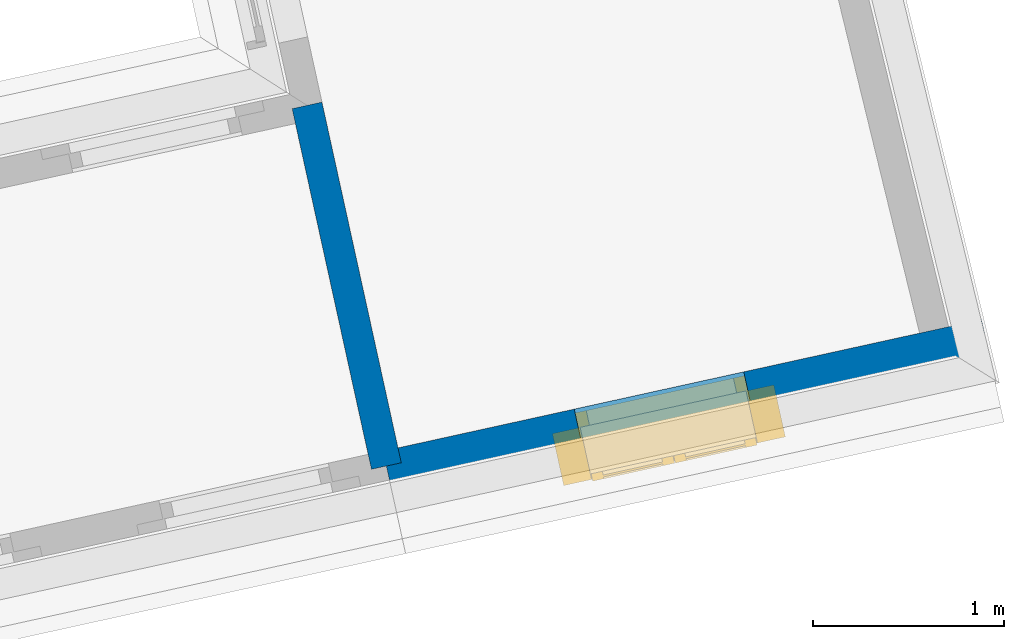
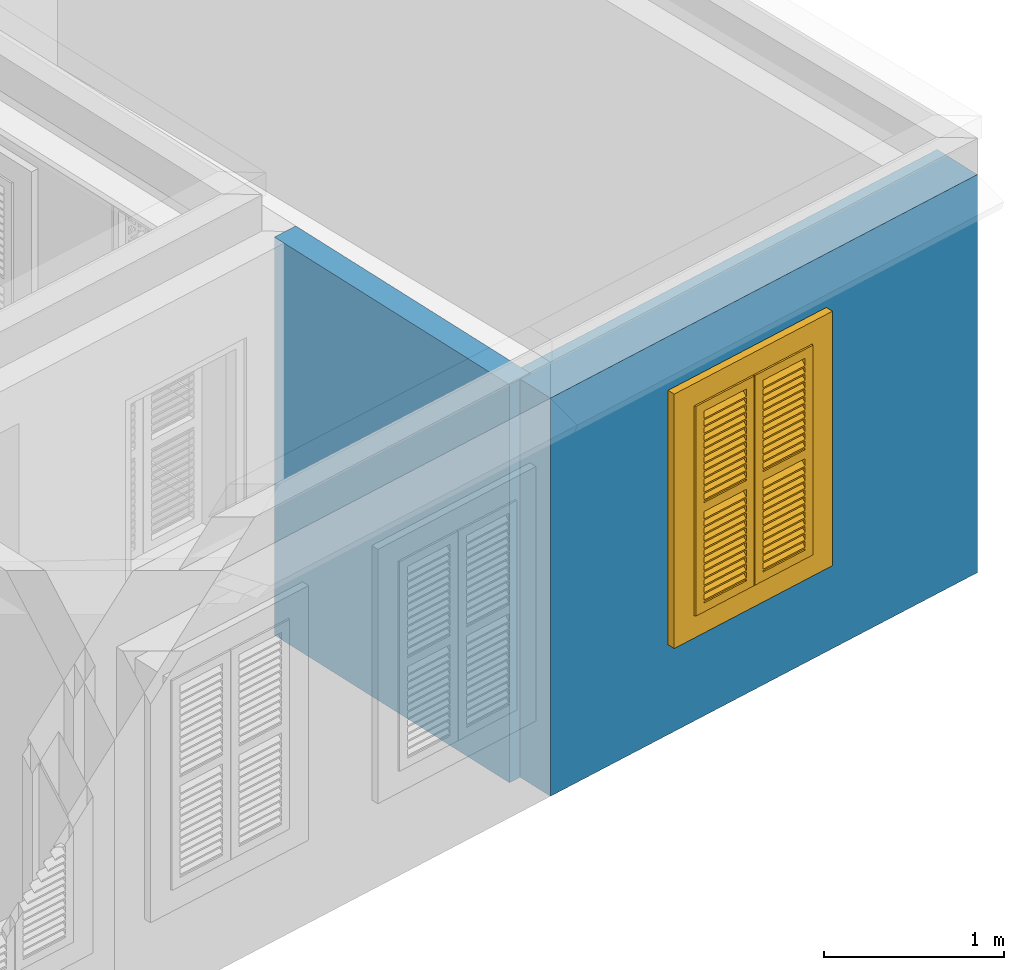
# One storey, part 6 of 17: 2 walls, 1 window, 1 opening.
"""IFC4 building model written with IfcOpenShell, lengths in metres."""

from ifc_helpers import new_model, si_unit, frame, origin, origin_with_axes, place, context, subcontext, project, spatial, polyline, outline, extrude, faceted_brep, source, transform, mapped, material, layer, layer_set, layer_usage, type_object, type_shapes, element, fill, save


model = new_model("IFC4")

# Units and contexts
model_context = context("Model", 3, world=origin_with_axes())
body_context = subcontext(model_context, "Body", "Model", "MODEL_VIEW")
ifc_project = project(units=[si_unit("PLANEANGLEUNIT", "RADIAN"), si_unit("MASSUNIT", "GRAM", prefix="KILO"), si_unit("FORCEUNIT", "NEWTON", prefix="KILO"), si_unit("LENGTHUNIT", "METRE"), si_unit("AREAUNIT", "SQUARE_METRE"), si_unit("VOLUMEUNIT", "CUBIC_METRE")], contexts=[model_context, model_context])

# Site, building, storey
site_placement = place(None, origin_with_axes())
site = spatial("IfcSite", under=ifc_project, at=site_placement, Name="Site plot-2", CompositionType="ELEMENT")
building_placement = place(None, origin_with_axes())
building = spatial("IfcBuilding", under=site, at=building_placement, Name="Building plot-2", CompositionType="ELEMENT")
storey_placement = place(None, frame((0.0, 0.0, 2.85), z_axis=(0.0, 0.0, 1.0), x_axis=(1.0, 0.0, 0.0)))
storey = spatial("IfcBuildingStorey", under=building, at=storey_placement, Name="plot-2 1", CompositionType="ELEMENT", Elevation=2.85)

# Wall, opening, window
ifc_material_1 = material(Name="Masonry")
ifc_layer_1 = layer(ifc_material_1, 0.33, ventilated=False)
ifc_layer_set_1 = layer_set([ifc_layer_1], Name="exterior_0.08_0.25")
ifc_layer_usage_1 = layer_usage(ifc_layer_set_1, "AXIS2", "POSITIVE", -0.25)
wall_type_1 = type_object("IfcWallType", Name="exterior_0.08_0.25", PredefinedType="SOLIDWALL", material=ifc_layer_set_1)
wall_1_placement = place(storey_placement, frame((17.8150690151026, 2.72446362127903, 0.0), z_axis=(0.0, 0.0, 1.0), x_axis=(0.976656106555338, 0.214808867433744, 0.0)))
wall_1 = element("IfcWall", 1, at=wall_1_placement, inside=storey, type_object=wall_type_1, material=ifc_layer_usage_1, Name="exterior", context=body_context, shape_type="SweptSolid", body=[
    extrude(outline(polyline([(1.5325654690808e-15, 0.0799999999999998), (-2.98229408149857e-15, -0.25), (3.21111456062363, -0.25), (3.21111456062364, 0.0799999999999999), (1.5325654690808e-15, 0.0799999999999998)])), origin_with_axes(), (0.0, 0.0, 1.0), 2.7),
])
opening_placement = place(wall_1_placement, frame((1.02555728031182, 0.0, 0.75)))
opening = element("IfcOpeningElement", 2, at=opening_placement, cuts=wall_1, Name="My Opening", ObjectType="Opening", context=body_context, shape_type="SweptSolid", body=[
    extrude(outline(polyline([(0.0, -0.27), (0.910000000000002, -0.270000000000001), (0.910000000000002, 1.1), (-2.22044604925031e-16, 1.1), (0.0, -0.27)])), origin_with_axes(), (0.0, 0.0, 1.0), 1.445),
])
window_type = type_object("IfcWindowType", Name="shuttered_shorter", PartitioningType="DOUBLE_PANEL_HORIZONTAL", PredefinedType="NOTDEFINED")
shared_shape = source(origin(), body_context, "Body", "Brep", [
    faceted_brep([(0.393, 0.0, 0.622), (0.074, 0.0, 0.622), (0.074, 0.0, 0.632), (0.393, 0.0, 0.632), (0.074, -0.04, 0.592), (0.393, -0.04, 0.592), (0.393, -0.04, 0.582), (0.074, -0.04, 0.582), (0.517, 0.0, 0.682), (0.836, 0.0, 0.682), (0.836, 0.0, 0.672), (0.517, 0.0, 0.672), (0.517, -0.04, 0.642), (0.836, -0.04, 0.642), (0.836, -0.04, 0.632), (0.517, -0.04, 0.632), (0.517, 0.0, 0.632), (0.836, 0.0, 0.632), (0.836, 0.0, 0.622), (0.517, 0.0, 0.622), (0.517, -0.04, 0.592), (0.836, -0.04, 0.592), (0.836, -0.04, 0.582), (0.517, -0.04, 0.582), (0.517, 0.0, 0.232), (0.836, 0.0, 0.232), (0.836, 0.0, 0.222), (0.517, 0.0, 0.222), (0.517, -0.04, 0.192), (0.836, -0.04, 0.192), (0.836, -0.04, 0.182), (0.517, -0.04, 0.182), (0.517, 0.0, 0.532), (0.836, 0.0, 0.532), (0.836, 0.0, 0.522), (0.517, 0.0, 0.522), (0.517, -0.04, 0.492), (0.836, -0.04, 0.492), (0.836, -0.04, 0.482), (0.517, -0.04, 0.482), (0.517, 0.0, 0.482), (0.836, 0.0, 0.482), (0.836, 0.0, 0.472), (0.517, 0.0, 0.472), (0.517, -0.04, 0.442), (0.836, -0.04, 0.442), (0.836, -0.04, 0.432), (0.517, -0.04, 0.432), (0.517, 0.0, 0.582), (0.836, 0.0, 0.582), (0.836, 0.0, 0.572), (0.517, 0.0, 0.572), (0.517, -0.04, 0.542), (0.836, -0.04, 0.542), (0.836, -0.04, 0.532), (0.517, -0.04, 0.532), (0.517, 0.0, 0.182), (0.836, 0.0, 0.182), (0.836, 0.0, 0.172), (0.517, 0.0, 0.172), (0.517, -0.04, 0.142), (0.836, -0.04, 0.142), (0.836, -0.04, 0.132), (0.517, -0.04, 0.132), (0.517, 0.0, 0.382), (0.836, 0.0, 0.382), (0.836, 0.0, 0.372), (0.517, 0.0, 0.372), (0.517, -0.04, 0.342), (0.836, -0.04, 0.342), (0.836, -0.04, 0.332), (0.517, -0.04, 0.332), (0.517, 0.0, 0.432), (0.836, 0.0, 0.432), (0.836, 0.0, 0.422), (0.517, 0.0, 0.422), (0.517, -0.04, 0.392), (0.836, -0.04, 0.392), (0.836, -0.04, 0.382), (0.517, -0.04, 0.382), (0.517, 0.0, 0.132), (0.836, 0.0, 0.132), (0.836, 0.0, 0.122), (0.517, 0.0, 0.122), (0.517, -0.04, 0.092), (0.836, -0.04, 0.092), (0.836, -0.04, 0.082), (0.517, -0.04, 0.082), (0.517, 0.0, 0.282), (0.836, 0.0, 0.282), (0.836, 0.0, 0.272), (0.517, 0.0, 0.272), (0.517, -0.04, 0.242), (0.836, -0.04, 0.242), (0.836, -0.04, 0.232), (0.517, -0.04, 0.232), (0.517, 0.0, 0.332), (0.836, 0.0, 0.332), (0.836, 0.0, 0.322), (0.517, 0.0, 0.322), (0.517, -0.04, 0.292), (0.836, -0.04, 0.292), (0.836, -0.04, 0.282), (0.517, -0.04, 0.282), (0.517, 0.0, 1.362667), (0.836, 0.0, 1.362667), (0.836, 0.0, 1.352667), (0.517, 0.0, 1.352667), (0.517, -0.04, 1.322667), (0.836, -0.04, 1.322667), (0.836, -0.04, 1.312667), (0.517, -0.04, 1.312667), (0.517, 0.0, 1.312667), (0.836, 0.0, 1.312667), (0.836, 0.0, 1.302667), (0.517, 0.0, 1.302667), (0.517, -0.04, 1.272667), (0.836, -0.04, 1.272667), (0.836, -0.04, 1.262667), (0.517, -0.04, 1.262667), (0.517, 0.0, 0.912667), (0.836, 0.0, 0.912667), (0.836, 0.0, 0.902667), (0.517, 0.0, 0.902667), (0.517, -0.04, 0.872667), (0.836, -0.04, 0.872667), (0.836, -0.04, 0.862667), (0.517, -0.04, 0.862667), (0.517, 0.0, 1.212667), (0.836, 0.0, 1.212667), (0.836, 0.0, 1.202667), (0.517, 0.0, 1.202667), (0.517, -0.04, 1.172667), (0.836, -0.04, 1.172667), (0.836, -0.04, 1.162667), (0.517, -0.04, 1.162667), (0.517, 0.0, 1.162667), (0.836, 0.0, 1.162667), (0.836, 0.0, 1.152667), (0.517, 0.0, 1.152667), (0.517, -0.04, 1.122667), (0.836, -0.04, 1.122667), (0.836, -0.04, 1.112667), (0.517, -0.04, 1.112667), (0.517, 0.0, 1.262667), (0.836, 0.0, 1.262667), (0.836, 0.0, 1.252667), (0.517, 0.0, 1.252667), (0.517, -0.04, 1.222667), (0.836, -0.04, 1.222667), (0.836, -0.04, 1.212667), (0.517, -0.04, 1.212667), (0.517, 0.0, 0.862667), (0.836, 0.0, 0.862667), (0.836, 0.0, 0.852667), (0.517, 0.0, 0.852667), (0.517, -0.04, 0.822667), (0.836, -0.04, 0.822667), (0.836, -0.04, 0.812667), (0.517, -0.04, 0.812667), (0.517, 0.0, 1.062667), (0.836, 0.0, 1.062667), (0.836, 0.0, 1.052667), (0.517, 0.0, 1.052667), (0.517, -0.04, 1.022667), (0.836, -0.04, 1.022667), (0.836, -0.04, 1.012667), (0.517, -0.04, 1.012667), (0.517, 0.0, 1.112667), (0.836, 0.0, 1.112667), (0.836, 0.0, 1.102667), (0.517, 0.0, 1.102667), (0.517, -0.04, 1.072667), (0.836, -0.04, 1.072667), (0.836, -0.04, 1.062667), (0.517, -0.04, 1.062667), (0.517, 0.0, 0.812667), (0.836, 0.0, 0.812667), (0.836, 0.0, 0.802667), (0.517, 0.0, 0.802667), (0.517, -0.04, 0.772667), (0.836, -0.04, 0.772667), (0.836, -0.04, 0.762667), (0.517, -0.04, 0.762667), (0.517, 0.0, 0.962667), (0.836, 0.0, 0.962667), (0.836, 0.0, 0.952667), (0.517, 0.0, 0.952667), (0.517, -0.04, 0.922667), (0.836, -0.04, 0.922667), (0.836, -0.04, 0.912667), (0.517, -0.04, 0.912667), (0.517, 0.0, 1.012667), (0.836, 0.0, 1.012667), (0.836, 0.0, 1.002667), (0.517, 0.0, 1.002667), (0.517, -0.04, 0.972667), (0.836, -0.04, 0.972667), (0.836, -0.04, 0.962667), (0.517, -0.04, 0.962667), (0.074, 0.0, 0.682), (0.393, 0.0, 0.682), (0.393, 0.0, 0.672), (0.074, 0.0, 0.672), (0.074, -0.04, 0.642), (0.393, -0.04, 0.642), (0.393, -0.04, 0.632), (0.074, -0.04, 0.632), (0.074, 0.0, 0.232), (0.393, 0.0, 0.232), (0.393, 0.0, 0.222), (0.074, 0.0, 0.222), (0.074, -0.04, 0.192), (0.393, -0.04, 0.192), (0.393, -0.04, 0.182), (0.074, -0.04, 0.182), (0.074, 0.0, 0.532), (0.393, 0.0, 0.532), (0.393, 0.0, 0.522), (0.074, 0.0, 0.522), (0.074, -0.04, 0.492), (0.393, -0.04, 0.492), (0.393, -0.04, 0.482), (0.074, -0.04, 0.482), (0.074, 0.0, 0.482), (0.393, 0.0, 0.482), (0.393, 0.0, 0.472), (0.074, 0.0, 0.472), (0.074, -0.04, 0.442), (0.393, -0.04, 0.442), (0.393, -0.04, 0.432), (0.074, -0.04, 0.432), (0.074, 0.0, 0.582), (0.393, 0.0, 0.582), (0.393, 0.0, 0.572), (0.074, 0.0, 0.572), (0.074, -0.04, 0.542), (0.393, -0.04, 0.542), (0.393, -0.04, 0.532), (0.074, -0.04, 0.532), (0.074, 0.0, 0.182), (0.393, 0.0, 0.182), (0.393, 0.0, 0.172), (0.074, 0.0, 0.172), (0.074, -0.04, 0.142), (0.393, -0.04, 0.142), (0.393, -0.04, 0.132), (0.074, -0.04, 0.132), (0.074, 0.0, 0.382), (0.393, 0.0, 0.382), (0.393, 0.0, 0.372), (0.074, 0.0, 0.372), (0.074, -0.04, 0.342), (0.393, -0.04, 0.342), (0.393, -0.04, 0.332), (0.074, -0.04, 0.332), (0.074, 0.0, 0.432), (0.393, 0.0, 0.432), (0.393, 0.0, 0.422), (0.074, 0.0, 0.422), (0.074, -0.04, 0.392), (0.393, -0.04, 0.392), (0.393, -0.04, 0.382), (0.074, -0.04, 0.382), (0.074, 0.0, 0.132), (0.393, 0.0, 0.132), (0.393, 0.0, 0.122), (0.074, 0.0, 0.122), (0.074, -0.04, 0.092), (0.393, -0.04, 0.092), (0.393, -0.04, 0.082), (0.074, -0.04, 0.082), (0.074, 0.0, 0.282), (0.393, 0.0, 0.282), (0.393, 0.0, 0.272), (0.074, 0.0, 0.272), (0.074, -0.04, 0.242), (0.393, -0.04, 0.242), (0.393, -0.04, 0.232), (0.074, -0.04, 0.232), (0.074, 0.0, 0.332), (0.393, 0.0, 0.332), (0.393, 0.0, 0.322), (0.074, 0.0, 0.322), (0.074, -0.04, 0.292), (0.393, -0.04, 0.292), (0.393, -0.04, 0.282), (0.074, -0.04, 0.282), (0.074, 0.0, 1.362667), (0.393, 0.0, 1.362667), (0.393, 0.0, 1.352667), (0.074, 0.0, 1.352667), (0.074, -0.04, 1.322667), (0.393, -0.04, 1.322667), (0.393, -0.04, 1.312667), (0.074, -0.04, 1.312667), (0.074, 0.0, 1.312667), (0.393, 0.0, 1.312667), (0.393, 0.0, 1.302667), (0.074, 0.0, 1.302667), (0.074, -0.04, 1.272667), (0.393, -0.04, 1.272667), (0.393, -0.04, 1.262667), (0.074, -0.04, 1.262667), (0.074, 0.0, 0.912667), (0.393, 0.0, 0.912667), (0.393, 0.0, 0.902667), (0.074, 0.0, 0.902667), (0.074, -0.04, 0.872667), (0.393, -0.04, 0.872667), (0.393, -0.04, 0.862667), (0.074, -0.04, 0.862667), (0.074, 0.0, 1.212667), (0.393, 0.0, 1.212667), (0.393, 0.0, 1.202667), (0.074, 0.0, 1.202667), (0.074, -0.04, 1.172667), (0.393, -0.04, 1.172667), (0.393, -0.04, 1.162667), (0.074, -0.04, 1.162667), (0.074, 0.0, 1.162667), (0.393, 0.0, 1.162667), (0.393, 0.0, 1.152667), (0.074, 0.0, 1.152667), (0.074, -0.04, 1.122667), (0.393, -0.04, 1.122667), (0.393, -0.04, 1.112667), (0.074, -0.04, 1.112667), (0.074, 0.0, 1.262667), (0.393, 0.0, 1.262667), (0.393, 0.0, 1.252667), (0.074, 0.0, 1.252667), (0.074, -0.04, 1.222667), (0.393, -0.04, 1.222667), (0.393, -0.04, 1.212667), (0.074, -0.04, 1.212667), (0.074, 0.0, 0.862667), (0.393, 0.0, 0.862667), (0.393, 0.0, 0.852667), (0.074, 0.0, 0.852667), (0.074, -0.04, 0.822667), (0.393, -0.04, 0.822667), (0.393, -0.04, 0.812667), (0.074, -0.04, 0.812667), (0.074, 0.0, 1.062667), (0.393, 0.0, 1.062667), (0.393, 0.0, 1.052667), (0.074, 0.0, 1.052667), (0.074, -0.04, 1.022667), (0.393, -0.04, 1.022667), (0.393, -0.04, 1.012667), (0.074, -0.04, 1.012667), (0.074, 0.0, 1.112667), (0.393, 0.0, 1.112667), (0.393, 0.0, 1.102667), (0.074, 0.0, 1.102667), (0.074, -0.04, 1.072667), (0.393, -0.04, 1.072667), (0.393, -0.04, 1.062667), (0.074, -0.04, 1.062667), (0.074, 0.0, 0.812667), (0.393, 0.0, 0.812667), (0.393, 0.0, 0.802667), (0.074, 0.0, 0.802667), (0.074, -0.04, 0.772667), (0.393, -0.04, 0.772667), (0.393, -0.04, 0.762667), (0.074, -0.04, 0.762667), (0.074, 0.0, 0.962667), (0.393, 0.0, 0.962667), (0.393, 0.0, 0.952667), (0.074, 0.0, 0.952667), (0.074, -0.04, 0.922667), (0.393, -0.04, 0.922667), (0.393, -0.04, 0.912667), (0.074, -0.04, 0.912667), (0.074, 0.0, 1.012667), (0.393, 0.0, 1.012667), (0.393, 0.0, 1.002667), (0.074, 0.0, 1.002667), (0.074, -0.04, 0.972667), (0.393, -0.04, 0.972667), (0.393, -0.04, 0.962667), (0.074, -0.04, 0.962667), (0.517, -0.04, 0.072), (0.457, -0.04, 0.012), (0.896, -0.04, 0.012), (0.836, -0.04, 0.072), (0.457, -0.04, 0.692667), (0.517, -0.04, 0.692667), (0.457, 0.0, 0.012), (0.896, 0.0, 0.012), (0.836, -0.04, 0.692667), (0.896, -0.04, 0.692667), (0.836, 0.0, 0.072), (0.517, 0.0, 0.072), (0.457, 0.0, 0.692667), (0.517, 0.0, 0.692667), (0.517, -0.04, 0.752666), (0.457, -0.04, 0.752666), (0.896, 0.0, 0.692667), (0.836, 0.0, 0.692667), (0.836, -0.04, 0.752666), (0.896, -0.04, 0.752666), (0.457, 0.0, 0.752666), (0.457, -0.04, 1.433333), (0.517, -0.04, 1.373333), (0.896, 0.0, 0.752666), (0.836, -0.04, 1.373333), (0.896, -0.04, 1.433333), (0.457, 0.0, 1.433333), (0.517, 0.0, 0.752666), (0.836, 0.0, 0.752666), (0.517, 0.0, 1.373333), (0.896, 0.0, 1.433333), (0.836, 0.0, 1.373333), (0.074, -0.04, 0.072), (0.014, -0.04, 0.012), (0.453, -0.04, 0.012), (0.393, -0.04, 0.072), (0.014, -0.04, 0.692667), (0.074, -0.04, 0.692667), (0.014, 0.0, 0.012), (0.453, 0.0, 0.012), (0.393, -0.04, 0.692667), (0.453, -0.04, 0.692667), (0.393, 0.0, 0.072), (0.074, 0.0, 0.072), (0.014, 0.0, 0.692667), (0.074, 0.0, 0.692667), (0.074, -0.04, 0.752666), (0.014, -0.04, 0.752666), (0.453, 0.0, 0.692667), (0.393, 0.0, 0.692667), (0.393, -0.04, 0.752666), (0.453, -0.04, 0.752666), (0.014, 0.0, 0.752666), (0.014, -0.04, 1.433333), (0.074, -0.04, 1.373333), (0.453, 0.0, 0.752666), (0.393, -0.04, 1.373333), (0.453, -0.04, 1.433333), (0.014, 0.0, 1.433333), (0.074, 0.0, 0.752666), (0.393, 0.0, 0.752666), (0.074, 0.0, 1.373333), (0.453, 0.0, 1.433333), (0.393, 0.0, 1.373333), (0.0, 0.33, 1.445), (0.91, 0.33, 1.445), (0.85, 0.33, 1.385), (0.06, 0.33, 1.385), (0.91, 0.25, 1.445), (0.0, 0.25, 1.445), (0.91, 0.25, 1.445), (0.85, 0.33, 0.06), (0.91, 0.33, 0.0), (0.85, 0.25, 1.385), (0.06, 0.25, 1.385), (0.0, 0.33, 0.0), (0.06, 0.33, 0.06), (0.0, 0.25, 0.0), (0.91, 0.25, 0.0), (0.85, 0.25, 0.06), (0.06, 0.25, 0.06), (1.05, 0.25, 1.585), (-0.14, 0.25, 1.585), (-0.14, -0.03, 1.585), (1.05, -0.03, 1.585), (0.9, -0.03, 1.435), (0.01, -0.03, 1.435), (0.01, 0.25, 1.435), (0.9, 0.25, 1.435), (0.9, 0.25, 0.01), (0.9, -0.03, 0.01), (1.05, -0.03, -0.14), (1.05, 0.25, -0.14), (0.01, -0.03, 0.01), (0.01, 0.25, 0.01), (-0.14, -0.03, -0.14), (-0.14, 0.25, -0.14)], [[[0, 1, 2, 3]], [[4, 5, 3, 2]], [[5, 6, 0, 3]], [[1, 0, 6, 7]], [[2, 1, 7, 4]], [[5, 4, 7, 6]], [[8, 9, 10, 11]], [[12, 13, 9, 8]], [[13, 14, 10, 9]], [[14, 15, 11, 10]], [[15, 12, 8, 11]], [[13, 12, 15, 14]], [[16, 17, 18, 19]], [[20, 21, 17, 16]], [[21, 22, 18, 17]], [[22, 23, 19, 18]], [[23, 20, 16, 19]], [[21, 20, 23, 22]], [[24, 25, 26, 27]], [[28, 29, 25, 24]], [[29, 30, 26, 25]], [[30, 31, 27, 26]], [[31, 28, 24, 27]], [[29, 28, 31, 30]], [[32, 33, 34, 35]], [[36, 37, 33, 32]], [[37, 38, 34, 33]], [[38, 39, 35, 34]], [[39, 36, 32, 35]], [[37, 36, 39, 38]], [[40, 41, 42, 43]], [[44, 45, 41, 40]], [[45, 46, 42, 41]], [[46, 47, 43, 42]], [[47, 44, 40, 43]], [[45, 44, 47, 46]], [[48, 49, 50, 51]], [[52, 53, 49, 48]], [[53, 54, 50, 49]], [[54, 55, 51, 50]], [[55, 52, 48, 51]], [[53, 52, 55, 54]], [[56, 57, 58, 59]], [[60, 61, 57, 56]], [[61, 62, 58, 57]], [[62, 63, 59, 58]], [[63, 60, 56, 59]], [[61, 60, 63, 62]], [[64, 65, 66, 67]], [[68, 69, 65, 64]], [[69, 70, 66, 65]], [[70, 71, 67, 66]], [[71, 68, 64, 67]], [[69, 68, 71, 70]], [[72, 73, 74, 75]], [[76, 77, 73, 72]], [[77, 78, 74, 73]], [[78, 79, 75, 74]], [[79, 76, 72, 75]], [[77, 76, 79, 78]], [[80, 81, 82, 83]], [[84, 85, 81, 80]], [[85, 86, 82, 81]], [[86, 87, 83, 82]], [[87, 84, 80, 83]], [[85, 84, 87, 86]], [[88, 89, 90, 91]], [[92, 93, 89, 88]], [[93, 94, 90, 89]], [[94, 95, 91, 90]], [[95, 92, 88, 91]], [[93, 92, 95, 94]], [[96, 97, 98, 99]], [[100, 101, 97, 96]], [[101, 102, 98, 97]], [[102, 103, 99, 98]], [[103, 100, 96, 99]], [[101, 100, 103, 102]], [[104, 105, 106, 107]], [[108, 109, 105, 104]], [[109, 110, 106, 105]], [[110, 111, 107, 106]], [[111, 108, 104, 107]], [[109, 108, 111, 110]], [[112, 113, 114, 115]], [[116, 117, 113, 112]], [[117, 118, 114, 113]], [[118, 119, 115, 114]], [[119, 116, 112, 115]], [[117, 116, 119, 118]], [[120, 121, 122, 123]], [[124, 125, 121, 120]], [[125, 126, 122, 121]], [[126, 127, 123, 122]], [[127, 124, 120, 123]], [[125, 124, 127, 126]], [[128, 129, 130, 131]], [[132, 133, 129, 128]], [[133, 134, 130, 129]], [[134, 135, 131, 130]], [[135, 132, 128, 131]], [[133, 132, 135, 134]], [[136, 137, 138, 139]], [[140, 141, 137, 136]], [[141, 142, 138, 137]], [[142, 143, 139, 138]], [[139, 143, 140, 136]], [[141, 140, 143, 142]], [[144, 145, 146, 147]], [[148, 149, 145, 144]], [[149, 150, 146, 145]], [[150, 151, 147, 146]], [[151, 148, 144, 147]], [[149, 148, 151, 150]], [[152, 153, 154, 155]], [[156, 157, 153, 152]], [[157, 158, 154, 153]], [[158, 159, 155, 154]], [[159, 156, 152, 155]], [[157, 156, 159, 158]], [[160, 161, 162, 163]], [[164, 165, 161, 160]], [[165, 166, 162, 161]], [[166, 167, 163, 162]], [[167, 164, 160, 163]], [[165, 164, 167, 166]], [[168, 169, 170, 171]], [[172, 173, 169, 168]], [[173, 174, 170, 169]], [[174, 175, 171, 170]], [[175, 172, 168, 171]], [[173, 172, 175, 174]], [[176, 177, 178, 179]], [[180, 181, 177, 176]], [[181, 182, 178, 177]], [[182, 183, 179, 178]], [[183, 180, 176, 179]], [[181, 180, 183, 182]], [[184, 185, 186, 187]], [[188, 189, 185, 184]], [[189, 190, 186, 185]], [[190, 191, 187, 186]], [[191, 188, 184, 187]], [[189, 188, 191, 190]], [[192, 193, 194, 195]], [[196, 197, 193, 192]], [[197, 198, 194, 193]], [[198, 199, 195, 194]], [[199, 196, 192, 195]], [[197, 196, 199, 198]], [[200, 201, 202, 203]], [[204, 205, 201, 200]], [[205, 206, 202, 201]], [[206, 207, 203, 202]], [[207, 204, 200, 203]], [[205, 204, 207, 206]], [[208, 209, 210, 211]], [[212, 213, 209, 208]], [[213, 214, 210, 209]], [[214, 215, 211, 210]], [[215, 212, 208, 211]], [[213, 212, 215, 214]], [[216, 217, 218, 219]], [[220, 221, 217, 216]], [[221, 222, 218, 217]], [[222, 223, 219, 218]], [[223, 220, 216, 219]], [[221, 220, 223, 222]], [[224, 225, 226, 227]], [[228, 229, 225, 224]], [[229, 230, 226, 225]], [[230, 231, 227, 226]], [[231, 228, 224, 227]], [[229, 228, 231, 230]], [[232, 233, 234, 235]], [[236, 237, 233, 232]], [[237, 238, 234, 233]], [[238, 239, 235, 234]], [[239, 236, 232, 235]], [[237, 236, 239, 238]], [[240, 241, 242, 243]], [[244, 245, 241, 240]], [[245, 246, 242, 241]], [[246, 247, 243, 242]], [[247, 244, 240, 243]], [[245, 244, 247, 246]], [[248, 249, 250, 251]], [[252, 253, 249, 248]], [[253, 254, 250, 249]], [[254, 255, 251, 250]], [[255, 252, 248, 251]], [[253, 252, 255, 254]], [[256, 257, 258, 259]], [[260, 261, 257, 256]], [[261, 262, 258, 257]], [[262, 263, 259, 258]], [[263, 260, 256, 259]], [[261, 260, 263, 262]], [[264, 265, 266, 267]], [[268, 269, 265, 264]], [[269, 270, 266, 265]], [[270, 271, 267, 266]], [[271, 268, 264, 267]], [[269, 268, 271, 270]], [[272, 273, 274, 275]], [[276, 277, 273, 272]], [[277, 278, 274, 273]], [[278, 279, 275, 274]], [[279, 276, 272, 275]], [[277, 276, 279, 278]], [[280, 281, 282, 283]], [[284, 285, 281, 280]], [[285, 286, 282, 281]], [[286, 287, 283, 282]], [[287, 284, 280, 283]], [[285, 284, 287, 286]], [[288, 289, 290, 291]], [[292, 293, 289, 288]], [[293, 294, 290, 289]], [[294, 295, 291, 290]], [[295, 292, 288, 291]], [[293, 292, 295, 294]], [[296, 297, 298, 299]], [[300, 301, 297, 296]], [[301, 302, 298, 297]], [[302, 303, 299, 298]], [[303, 300, 296, 299]], [[301, 300, 303, 302]], [[304, 305, 306, 307]], [[308, 309, 305, 304]], [[309, 310, 306, 305]], [[310, 311, 307, 306]], [[311, 308, 304, 307]], [[309, 308, 311, 310]], [[312, 313, 314, 315]], [[316, 317, 313, 312]], [[317, 318, 314, 313]], [[318, 319, 315, 314]], [[319, 316, 312, 315]], [[317, 316, 319, 318]], [[320, 321, 322, 323]], [[324, 325, 321, 320]], [[325, 326, 322, 321]], [[326, 327, 323, 322]], [[327, 324, 320, 323]], [[325, 324, 327, 326]], [[328, 329, 330, 331]], [[332, 333, 329, 328]], [[333, 334, 330, 329]], [[334, 335, 331, 330]], [[335, 332, 328, 331]], [[333, 332, 335, 334]], [[336, 337, 338, 339]], [[340, 341, 337, 336]], [[341, 342, 338, 337]], [[342, 343, 339, 338]], [[343, 340, 336, 339]], [[341, 340, 343, 342]], [[344, 345, 346, 347]], [[348, 349, 345, 344]], [[349, 350, 346, 345]], [[350, 351, 347, 346]], [[351, 348, 344, 347]], [[349, 348, 351, 350]], [[352, 353, 354, 355]], [[356, 357, 353, 352]], [[357, 358, 354, 353]], [[358, 359, 355, 354]], [[359, 356, 352, 355]], [[357, 356, 359, 358]], [[360, 361, 362, 363]], [[364, 365, 361, 360]], [[365, 366, 362, 361]], [[366, 367, 363, 362]], [[367, 364, 360, 363]], [[365, 364, 367, 366]], [[368, 369, 370, 371]], [[372, 373, 369, 368]], [[373, 374, 370, 369]], [[374, 375, 371, 370]], [[375, 372, 368, 371]], [[373, 372, 375, 374]], [[376, 377, 378, 379]], [[380, 381, 377, 376]], [[381, 382, 378, 377]], [[382, 383, 379, 378]], [[383, 380, 376, 379]], [[381, 380, 383, 382]], [[384, 385, 386, 387]], [[388, 385, 384, 389]], [[390, 391, 386, 385]], [[392, 387, 386, 393]], [[384, 387, 394, 395]], [[390, 385, 388, 396]], [[389, 384, 395, 397]], [[389, 398, 399, 388]], [[390, 395, 394, 391]], [[400, 393, 386, 391]], [[387, 392, 401, 394]], [[402, 392, 393, 403]], [[396, 388, 399, 404]], [[390, 396, 397, 395]], [[392, 389, 397, 401]], [[398, 389, 392, 402]], [[405, 399, 398, 406]], [[394, 401, 400, 391]], [[407, 403, 393, 400]], [[408, 402, 403, 409]], [[404, 399, 405, 410]], [[411, 397, 396, 404]], [[397, 411, 412, 401]], [[398, 402, 412, 411]], [[406, 398, 411, 413]], [[405, 406, 408, 409]], [[401, 412, 407, 400]], [[414, 409, 403, 407]], [[402, 408, 415, 412]], [[405, 409, 414, 410]], [[404, 410, 413, 411]], [[408, 406, 413, 415]], [[412, 415, 414, 407]], [[413, 410, 414, 415]], [[416, 417, 418, 419]], [[420, 417, 416, 421]], [[422, 423, 418, 417]], [[424, 419, 418, 425]], [[416, 419, 426, 427]], [[422, 417, 420, 428]], [[421, 416, 427, 429]], [[421, 430, 431, 420]], [[422, 427, 426, 423]], [[432, 425, 418, 423]], [[419, 424, 433, 426]], [[434, 424, 425, 435]], [[428, 420, 431, 436]], [[422, 428, 429, 427]], [[424, 421, 429, 433]], [[430, 421, 424, 434]], [[437, 431, 430, 438]], [[426, 433, 432, 423]], [[439, 435, 425, 432]], [[440, 434, 435, 441]], [[436, 431, 437, 442]], [[443, 429, 428, 436]], [[429, 443, 444, 433]], [[430, 434, 444, 443]], [[438, 430, 443, 445]], [[437, 438, 440, 441]], [[433, 444, 439, 432]], [[446, 441, 435, 439]], [[434, 440, 447, 444]], [[437, 441, 446, 442]], [[436, 442, 445, 443]], [[440, 438, 445, 447]], [[444, 447, 446, 439]], [[445, 442, 446, 447]], [[448, 449, 450, 451]], [[452, 449, 448]], [[448, 453, 454]], [[448, 454, 452]], [[455, 450, 449, 456]], [[451, 450, 457, 458]], [[459, 448, 451, 460]], [[448, 459, 461, 453]], [[454, 453, 458, 457]], [[462, 452, 454]], [[454, 457, 463]], [[454, 463, 462]], [[456, 449, 452, 462]], [[450, 455, 463, 457]], [[456, 459, 460, 455]], [[460, 451, 458, 464]], [[459, 456, 462, 461]], [[464, 458, 453, 461]], [[461, 462, 463, 464]], [[455, 460, 464, 463]], [[465, 466, 467, 468]], [[469, 470, 471, 472]], [[473, 474, 469, 472]], [[465, 468, 475, 476]], [[470, 477, 478, 471]], [[474, 473, 478, 477]], [[474, 477, 479, 475]], [[470, 467, 479, 477]], [[470, 469, 468, 467]], [[474, 475, 468, 469]], [[471, 478, 480, 466]], [[473, 472, 465, 476]], [[473, 476, 480, 478]], [[466, 465, 472, 471]], [[480, 476, 475, 479]], [[480, 479, 467, 466]]]),
])
type_shapes(window_type, [shared_shape])
window_placement = place(storey_placement, frame((18.8746841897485, 2.6810652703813, 0.75), z_axis=(0.0, 0.0, 1.0), x_axis=(0.88875705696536, 0.195476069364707, 0.0)))
window = element("IfcWindow", 3, at=window_placement, inside=storey, type_object=window_type, Name="bedroom outside window", OverallHeight=1.445, OverallWidth=0.91, context=body_context, shape_type="MappedRepresentation", body=[
    mapped(shared_shape, transform((0.0, 0.0, 0.0), scale=1.0)),
])
fill(opening, window)

# Wall
ifc_material_2 = material(Name="Masonry")
ifc_layer_2 = layer(ifc_material_2, 0.16, ventilated=False)
ifc_layer_set_2 = layer_set([ifc_layer_2], Name="interior_0.08_0.08")
ifc_layer_usage_2 = layer_usage(ifc_layer_set_2, "AXIS2", "POSITIVE", -0.08)
wall_type_2 = type_object("IfcWallType", Name="interior_0.08_0.08", PredefinedType="SOLIDWALL", material=ifc_layer_set_2)
wall_2_placement = place(storey_placement, frame((17.8150690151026, 2.72446362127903, 0.0), z_axis=(0.0, 0.0, 1.0), x_axis=(-0.214808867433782, 0.97665610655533, 0.0)))
element("IfcWall", 4, at=wall_2_placement, inside=storey, type_object=wall_type_2, material=ifc_layer_usage_2, Name="interior", context=body_context, shape_type="SweptSolid", body=[
    extrude(outline(polyline([(5.0227850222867e-16, 0.0800000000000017), (-4.92481327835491e-16, -0.0800000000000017), (1.9355065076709, -0.0800000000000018), (1.93550650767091, 0.0800000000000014), (5.0227850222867e-16, 0.0800000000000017)])), origin_with_axes(), (0.0, 0.0, 1.0), 2.7),
])

save(model, "model.ifc")
